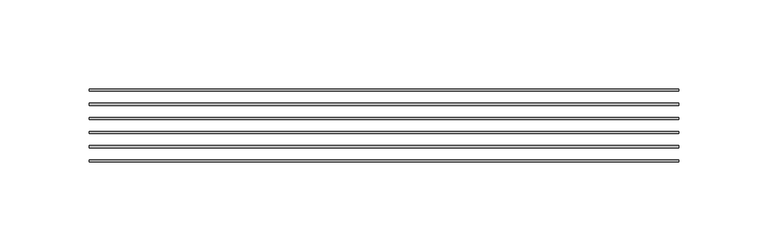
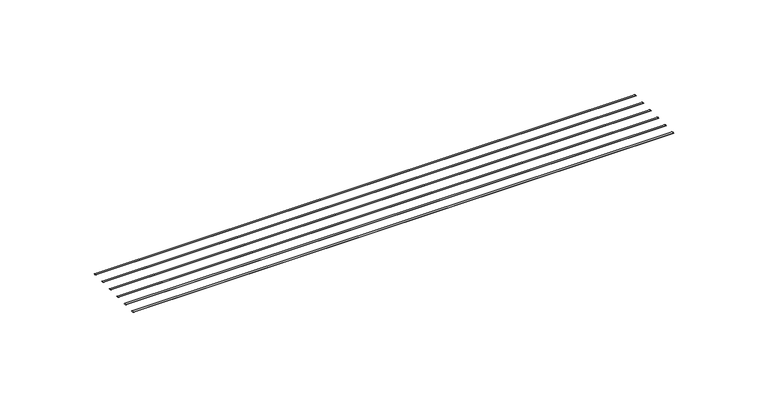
"""IFC4 building model written with IfcOpenShell, lengths in millimetres: proxy geometry, CRAi Generic Model Mesh Piece Face Based : CRAi Generic Model Mesh Piece Face Based."""

from ifc_helpers import new_model, si_unit, point, frame, origin, place, context, project, spatial, ellipse_curve, trimmed, source, transform, mapped, element, save
from ifc_brep_helpers import plane_surface, extruded_surface, advanced_brep


def generic_models_8dcf8eaa(model_context):
    return source(origin(), model_context, "Body", "AdvancedBrep", [
        advanced_brep(
        [(-165.1, -133.5484375, -2.9765625), (-165.1, -134.7390625, -2.9765625), (165.1, -133.5484375, -2.9765625), (165.1, -134.7390625, -2.9765625)],
        [
            (0, 1, ellipse_curve(frame((-165.1, -134.14375, -2.9765625), z_axis=(-1.0, 0.0, 0.0), x_axis=(0.0, -1.0, 0.0)), 0.5953125, 0.1984375)),
            (1, 0, ellipse_curve(frame((-165.1, -134.14375, -2.9765625), z_axis=(-1.0, 0.0, 0.0), x_axis=(0.0, -1.0, 0.0)), 0.5953125, 0.1984375)),
            (2, 3, ellipse_curve(frame((165.1, -134.14375, -2.9765625), z_axis=(1.0, 0.0, 0.0), x_axis=(0.0, -1.0, 0.0)), 0.5953125, 0.1984375)),
            (3, 2, ellipse_curve(frame((165.1, -134.14375, -2.9765625), z_axis=(1.0, 0.0, 0.0), x_axis=(0.0, -1.0, 0.0)), 0.5953125, 0.1984375)),
            (0, 2),
            (3, 1),
        ],
        [
            plane_surface(frame((-165.1, -134.14375, -2.9765625), z_axis=(-1.0, 0.0, 0.0), x_axis=(0.0, 0.0, 1.0))),
            plane_surface(frame((165.1, -134.14375, -2.9765625), z_axis=(1.0, 0.0, 0.0), x_axis=(0.0, 0.0, 1.0))),
            extruded_surface(trimmed(ellipse_curve(frame((165.1, -134.14375, -2.9765625), z_axis=(-1.0, 0.0, 0.0), x_axis=(0.0, -1.0, 0.0)), 0.5953125, 0.1984375), [point((165.1, -133.5484375, -2.9765625))], [point((165.1, -134.7390625, -2.9765625))], True, "CARTESIAN"), (-330.2, 0.0, 0.0), 330.2),
            extruded_surface(trimmed(ellipse_curve(frame((165.1, -134.14375, -2.9765625), z_axis=(-1.0, 0.0, 0.0), x_axis=(0.0, -1.0, 0.0)), 0.5953125, 0.1984375), [point((165.1, -134.7390625, -2.9765625))], [point((165.1, -133.5484375, -2.9765625))], True, "CARTESIAN"), (-330.2, 0.0, 0.0), 330.2),
        ],
        [
            (0, [[1, 2]]),
            (1, [[3, 4]]),
            (2, [[-1, 5, -4, 6]]),
            (3, [[-2, -6, -3, -5]]),
        ],
    ),
        advanced_brep(
        [(-165.1, -141.4859375, -2.9765625), (-165.1, -142.6765625, -2.9765625), (165.1, -141.4859375, -2.9765625), (165.1, -142.6765625, -2.9765625)],
        [
            (0, 1, ellipse_curve(frame((-165.1, -142.08125, -2.9765625), z_axis=(-1.0, 0.0, 0.0), x_axis=(0.0, -1.0, 0.0)), 0.5953125, 0.1984375)),
            (1, 0, ellipse_curve(frame((-165.1, -142.08125, -2.9765625), z_axis=(-1.0, 0.0, 0.0), x_axis=(0.0, -1.0, 0.0)), 0.5953125, 0.1984375)),
            (2, 3, ellipse_curve(frame((165.1, -142.08125, -2.9765625), z_axis=(1.0, 0.0, 0.0), x_axis=(0.0, -1.0, 0.0)), 0.5953125, 0.1984375)),
            (3, 2, ellipse_curve(frame((165.1, -142.08125, -2.9765625), z_axis=(1.0, 0.0, 0.0), x_axis=(0.0, -1.0, 0.0)), 0.5953125, 0.1984375)),
            (0, 2),
            (3, 1),
        ],
        [
            plane_surface(frame((-165.1, -142.08125, -2.9765625), z_axis=(-1.0, 0.0, 0.0), x_axis=(0.0, 0.0, 1.0))),
            plane_surface(frame((165.1, -142.08125, -2.9765625), z_axis=(1.0, 0.0, 0.0), x_axis=(0.0, 0.0, 1.0))),
            extruded_surface(trimmed(ellipse_curve(frame((165.1, -142.08125, -2.9765625), z_axis=(-1.0, 0.0, 0.0), x_axis=(0.0, -1.0, 0.0)), 0.5953125, 0.1984375), [point((165.1, -141.4859375, -2.9765625))], [point((165.1, -142.6765625, -2.9765625))], True, "CARTESIAN"), (-330.2, 0.0, 0.0), 330.2),
            extruded_surface(trimmed(ellipse_curve(frame((165.1, -142.08125, -2.9765625), z_axis=(-1.0, 0.0, 0.0), x_axis=(0.0, -1.0, 0.0)), 0.5953125, 0.1984375), [point((165.1, -142.6765625, -2.9765625))], [point((165.1, -141.4859375, -2.9765625))], True, "CARTESIAN"), (-330.2, 0.0, 0.0), 330.2),
        ],
        [
            (0, [[1, 2]]),
            (1, [[3, 4]]),
            (2, [[-1, 5, -4, 6]]),
            (3, [[-2, -6, -3, -5]]),
        ],
    ),
        advanced_brep(
        [(-165.1, -149.4234375, -2.9765625), (-165.1, -150.6140625, -2.9765625), (165.1, -149.4234375, -2.9765625), (165.1, -150.6140625, -2.9765625)],
        [
            (0, 1, ellipse_curve(frame((-165.1, -150.01875, -2.9765625), z_axis=(-1.0, 0.0, 0.0), x_axis=(0.0, -1.0, 0.0)), 0.5953125, 0.1984375)),
            (1, 0, ellipse_curve(frame((-165.1, -150.01875, -2.9765625), z_axis=(-1.0, 0.0, 0.0), x_axis=(0.0, -1.0, 0.0)), 0.5953125, 0.1984375)),
            (2, 3, ellipse_curve(frame((165.1, -150.01875, -2.9765625), z_axis=(1.0, 0.0, 0.0), x_axis=(0.0, -1.0, 0.0)), 0.5953125, 0.1984375)),
            (3, 2, ellipse_curve(frame((165.1, -150.01875, -2.9765625), z_axis=(1.0, 0.0, 0.0), x_axis=(0.0, -1.0, 0.0)), 0.5953125, 0.1984375)),
            (0, 2),
            (3, 1),
        ],
        [
            plane_surface(frame((-165.1, -150.01875, -2.9765625), z_axis=(-1.0, 0.0, 0.0), x_axis=(0.0, 0.0, 1.0))),
            plane_surface(frame((165.1, -150.01875, -2.9765625), z_axis=(1.0, 0.0, 0.0), x_axis=(0.0, 0.0, 1.0))),
            extruded_surface(trimmed(ellipse_curve(frame((165.1, -150.01875, -2.9765625), z_axis=(-1.0, 0.0, 0.0), x_axis=(0.0, -1.0, 0.0)), 0.5953125, 0.1984375), [point((165.1, -149.4234375, -2.9765625))], [point((165.1, -150.6140625, -2.9765625))], True, "CARTESIAN"), (-330.2, 0.0, 0.0), 330.2),
            extruded_surface(trimmed(ellipse_curve(frame((165.1, -150.01875, -2.9765625), z_axis=(-1.0, 0.0, 0.0), x_axis=(0.0, -1.0, 0.0)), 0.5953125, 0.1984375), [point((165.1, -150.6140625, -2.9765625))], [point((165.1, -149.4234375, -2.9765625))], True, "CARTESIAN"), (-330.2, 0.0, 0.0), 330.2),
        ],
        [
            (0, [[1, 2]]),
            (1, [[3, 4]]),
            (2, [[-1, 5, -4, 6]]),
            (3, [[-2, -6, -3, -5]]),
        ],
    ),
        advanced_brep(
        [(-165.1, -157.3609375, -2.9765625), (-165.1, -158.5515625, -2.9765625), (165.1, -157.3609375, -2.9765625), (165.1, -158.5515625, -2.9765625)],
        [
            (0, 1, ellipse_curve(frame((-165.1, -157.95625, -2.9765625), z_axis=(-1.0, 0.0, 0.0), x_axis=(0.0, -1.0, 0.0)), 0.5953125, 0.1984375)),
            (1, 0, ellipse_curve(frame((-165.1, -157.95625, -2.9765625), z_axis=(-1.0, 0.0, 0.0), x_axis=(0.0, -1.0, 0.0)), 0.5953125, 0.1984375)),
            (2, 3, ellipse_curve(frame((165.1, -157.95625, -2.9765625), z_axis=(1.0, 0.0, 0.0), x_axis=(0.0, -1.0, 0.0)), 0.5953125, 0.1984375)),
            (3, 2, ellipse_curve(frame((165.1, -157.95625, -2.9765625), z_axis=(1.0, 0.0, 0.0), x_axis=(0.0, -1.0, 0.0)), 0.5953125, 0.1984375)),
            (0, 2),
            (3, 1),
        ],
        [
            plane_surface(frame((-165.1, -157.95625, -2.9765625), z_axis=(-1.0, 0.0, 0.0), x_axis=(0.0, 0.0, 1.0))),
            plane_surface(frame((165.1, -157.95625, -2.9765625), z_axis=(1.0, 0.0, 0.0), x_axis=(0.0, 0.0, 1.0))),
            extruded_surface(trimmed(ellipse_curve(frame((165.1, -157.95625, -2.9765625), z_axis=(-1.0, 0.0, 0.0), x_axis=(0.0, -1.0, 0.0)), 0.5953125, 0.1984375), [point((165.1, -157.3609375, -2.9765625))], [point((165.1, -158.5515625, -2.9765625))], True, "CARTESIAN"), (-330.2, 0.0, 0.0), 330.2),
            extruded_surface(trimmed(ellipse_curve(frame((165.1, -157.95625, -2.9765625), z_axis=(-1.0, 0.0, 0.0), x_axis=(0.0, -1.0, 0.0)), 0.5953125, 0.1984375), [point((165.1, -158.5515625, -2.9765625))], [point((165.1, -157.3609375, -2.9765625))], True, "CARTESIAN"), (-330.2, 0.0, 0.0), 330.2),
        ],
        [
            (0, [[1, 2]]),
            (1, [[3, 4]]),
            (2, [[-1, 5, -4, 6]]),
            (3, [[-2, -6, -3, -5]]),
        ],
    ),
        advanced_brep(
        [(-165.1, -165.2984375, -2.9765625), (-165.1, -166.4890625, -2.9765625), (165.1, -165.2984375, -2.9765625), (165.1, -166.4890625, -2.9765625)],
        [
            (0, 1, ellipse_curve(frame((-165.1, -165.89375, -2.9765625), z_axis=(-1.0, 0.0, 0.0), x_axis=(0.0, -1.0, 0.0)), 0.5953125, 0.1984375)),
            (1, 0, ellipse_curve(frame((-165.1, -165.89375, -2.9765625), z_axis=(-1.0, 0.0, 0.0), x_axis=(0.0, -1.0, 0.0)), 0.5953125, 0.1984375)),
            (2, 3, ellipse_curve(frame((165.1, -165.89375, -2.9765625), z_axis=(1.0, 0.0, 0.0), x_axis=(0.0, -1.0, 0.0)), 0.5953125, 0.1984375)),
            (3, 2, ellipse_curve(frame((165.1, -165.89375, -2.9765625), z_axis=(1.0, 0.0, 0.0), x_axis=(0.0, -1.0, 0.0)), 0.5953125, 0.1984375)),
            (0, 2),
            (3, 1),
        ],
        [
            plane_surface(frame((-165.1, -165.89375, -2.9765625), z_axis=(-1.0, 0.0, 0.0), x_axis=(0.0, 0.0, 1.0))),
            plane_surface(frame((165.1, -165.89375, -2.9765625), z_axis=(1.0, 0.0, 0.0), x_axis=(0.0, 0.0, 1.0))),
            extruded_surface(trimmed(ellipse_curve(frame((165.1, -165.89375, -2.9765625), z_axis=(-1.0, 0.0, 0.0), x_axis=(0.0, -1.0, 0.0)), 0.5953125, 0.1984375), [point((165.1, -165.2984375, -2.9765625))], [point((165.1, -166.4890625, -2.9765625))], True, "CARTESIAN"), (-330.2, 0.0, 0.0), 330.2),
            extruded_surface(trimmed(ellipse_curve(frame((165.1, -165.89375, -2.9765625), z_axis=(-1.0, 0.0, 0.0), x_axis=(0.0, -1.0, 0.0)), 0.5953125, 0.1984375), [point((165.1, -166.4890625, -2.9765625))], [point((165.1, -165.2984375, -2.9765625))], True, "CARTESIAN"), (-330.2, 0.0, 0.0), 330.2),
        ],
        [
            (0, [[1, 2]]),
            (1, [[3, 4]]),
            (2, [[-1, 5, -4, 6]]),
            (3, [[-2, -6, -3, -5]]),
        ],
    ),
        advanced_brep(
        [(-165.1, -173.2359375, -2.9765625), (-165.1, -174.4265625, -2.9765625), (165.1, -173.2359375, -2.9765625), (165.1, -174.4265625, -2.9765625)],
        [
            (0, 1, ellipse_curve(frame((-165.1, -173.83125, -2.9765625), z_axis=(-1.0, 0.0, 0.0), x_axis=(0.0, -1.0, 0.0)), 0.5953125, 0.1984375)),
            (1, 0, ellipse_curve(frame((-165.1, -173.83125, -2.9765625), z_axis=(-1.0, 0.0, 0.0), x_axis=(0.0, -1.0, 0.0)), 0.5953125, 0.1984375)),
            (2, 3, ellipse_curve(frame((165.1, -173.83125, -2.9765625), z_axis=(1.0, 0.0, 0.0), x_axis=(0.0, -1.0, 0.0)), 0.5953125, 0.1984375)),
            (3, 2, ellipse_curve(frame((165.1, -173.83125, -2.9765625), z_axis=(1.0, 0.0, 0.0), x_axis=(0.0, -1.0, 0.0)), 0.5953125, 0.1984375)),
            (0, 2),
            (3, 1),
        ],
        [
            plane_surface(frame((-165.1, -173.83125, -2.9765625), z_axis=(-1.0, 0.0, 0.0), x_axis=(0.0, 0.0, 1.0))),
            plane_surface(frame((165.1, -173.83125, -2.9765625), z_axis=(1.0, 0.0, 0.0), x_axis=(0.0, 0.0, 1.0))),
            extruded_surface(trimmed(ellipse_curve(frame((165.1, -173.83125, -2.9765625), z_axis=(-1.0, 0.0, 0.0), x_axis=(0.0, -1.0, 0.0)), 0.5953125, 0.1984375), [point((165.1, -173.2359375, -2.9765625))], [point((165.1, -174.4265625, -2.9765625))], True, "CARTESIAN"), (-330.2, 0.0, 0.0), 330.2),
            extruded_surface(trimmed(ellipse_curve(frame((165.1, -173.83125, -2.9765625), z_axis=(-1.0, 0.0, 0.0), x_axis=(0.0, -1.0, 0.0)), 0.5953125, 0.1984375), [point((165.1, -174.4265625, -2.9765625))], [point((165.1, -173.2359375, -2.9765625))], True, "CARTESIAN"), (-330.2, 0.0, 0.0), 330.2),
        ],
        [
            (0, [[1, 2]]),
            (1, [[3, 4]]),
            (2, [[-1, 5, -4, 6]]),
            (3, [[-2, -6, -3, -5]]),
        ],
    ),
    ])


if __name__ == "__main__":
    model = new_model("IFC4")
    model_context = context("Model", 3, world=origin())
    ifc_project = project(units=[si_unit("LENGTHUNIT", "METRE", prefix="MILLI")], contexts=[model_context])
    site = spatial("IfcSite", under=ifc_project)
    building = spatial("IfcBuilding", under=site)
    placement = place(None, origin())
    generic_models_shape = generic_models_8dcf8eaa(model_context)
    element("IfcBuildingElementProxy", 1, Name="CRAi Generic Model Mesh Piece Face Based : CRAi Generic Model Mesh Piece Face Based", ObjectType="CRAi Generic Model Mesh Piece Face Based : CRAi Generic Model Mesh Piece Face Based", at=placement, inside=building, context=model_context, shape_type="MappedRepresentation", body=[
        mapped(generic_models_shape, transform((0.0, 0.0, 0.0), x_axis=(1.0, 0.0, 0.0), y_axis=(0.0, 1.0, 0.0), z_axis=(0.0, 0.0, 1.0))),
    ])
    save(model, "model.ifc")
